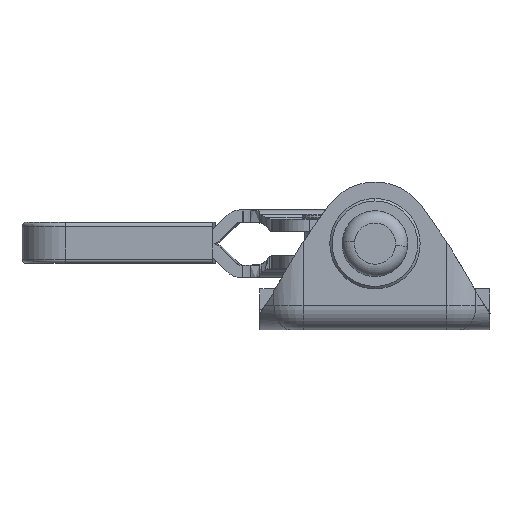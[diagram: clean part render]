
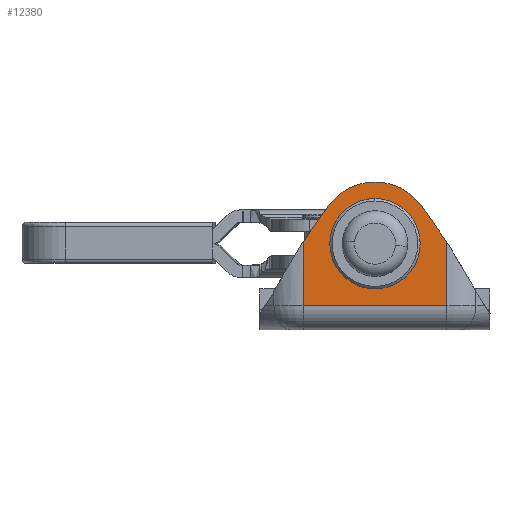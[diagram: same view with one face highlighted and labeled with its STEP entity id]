
A CAD part, left-side view. The second image highlights one B-rep face of the part: STEP entity #12380.
In plain terms, the highlighted planar face has unit normal (-1, 0, 0).
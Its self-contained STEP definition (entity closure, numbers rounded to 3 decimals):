
#643 = VECTOR ( 'NONE', #24608, 1000. ) ;
#723 = CARTESIAN_POINT ( 'NONE',  ( -12.704, -7.04, 2. ) ) ;
#943 = DIRECTION ( 'NONE',  ( 0., 0., 1. ) ) ;
#1127 = CIRCLE ( 'NONE', #22319, 7. ) ;
#1850 = VERTEX_POINT ( 'NONE', #15695 ) ;
#2398 = FACE_BOUND ( 'NONE', #23254, .T. ) ;
#2636 = VERTEX_POINT ( 'NONE', #5954 ) ;
#3382 = EDGE_CURVE ( 'NONE', #13728, #12388, #22217, .T. ) ;
#3490 = AXIS2_PLACEMENT_3D ( 'NONE', #14015, #22381, #20759 ) ;
#3508 = LINE ( 'NONE', #21587, #23444 ) ;
#4082 = DIRECTION ( 'NONE',  ( 0., 0., 1. ) ) ;
#4683 = EDGE_CURVE ( 'NONE', #14164, #25964, #12483, .T. ) ;
#4770 = CARTESIAN_POINT ( 'NONE',  ( -12.704, -7.17, 10.5 ) ) ;
#5179 = VERTEX_POINT ( 'NONE', #7580 ) ;
#5395 = EDGE_CURVE ( 'NONE', #2636, #13728, #7202, .T. ) ;
#5404 = ORIENTED_EDGE ( 'NONE', *, *, #3382, .F. ) ;
#5936 = CARTESIAN_POINT ( 'NONE',  ( -12.704, 10.475, 2. ) ) ;
#5954 = CARTESIAN_POINT ( 'NONE',  ( -12.704, -7.04, 10.686 ) ) ;
#6242 = ORIENTED_EDGE ( 'NONE', *, *, #5395, .F. ) ;
#7202 = LINE ( 'NONE', #723, #22926 ) ;
#7580 = CARTESIAN_POINT ( 'NONE',  ( -12.704, 10.475, 10.686 ) ) ;
#7796 = CARTESIAN_POINT ( 'NONE',  ( -12.704, 1.717, 6.65 ) ) ;
#8088 = DIRECTION ( 'NONE',  ( 0., 0.574, -0.819 ) ) ;
#8184 = CARTESIAN_POINT ( 'NONE',  ( -12.704, 10.475, 3. ) ) ;
#8920 = CARTESIAN_POINT ( 'NONE',  ( -12.704, -3.84, 15.256 ) ) ;
#10135 = ORIENTED_EDGE ( 'NONE', *, *, #22400, .T. ) ;
#10256 = VECTOR ( 'NONE', #8088, 1000. ) ;
#10319 = ORIENTED_EDGE ( 'NONE', *, *, #23423, .F. ) ;
#10423 = ORIENTED_EDGE ( 'NONE', *, *, #10466, .F. ) ;
#10466 = EDGE_CURVE ( 'NONE', #12388, #5179, #3508, .T. ) ;
#10840 = CIRCLE ( 'NONE', #19035, 3.85 ) ;
#10885 = ORIENTED_EDGE ( 'NONE', *, *, #23261, .T. ) ;
#11395 = CARTESIAN_POINT ( 'NONE',  ( -12.704, 1.717, 11. ) ) ;
#11439 = CARTESIAN_POINT ( 'NONE',  ( -12.704, 1.717, 10.5 ) ) ;
#12071 = PLANE ( 'NONE',  #13693 ) ;
#12190 = LINE ( 'NONE', #22355, #10256 ) ;
#12380 = ADVANCED_FACE ( 'NONE', ( #2398, #21381 ), #12071, .F. ) ;
#12388 = VERTEX_POINT ( 'NONE', #26446 ) ;
#12483 = CIRCLE ( 'NONE', #18418, 3.85 ) ;
#12549 = DIRECTION ( 'NONE',  ( 1., 0., 0. ) ) ;
#13125 = EDGE_CURVE ( 'NONE', #1850, #26069, #19189, .T. ) ;
#13693 = AXIS2_PLACEMENT_3D ( 'NONE', #5936, #16405, #20230 ) ;
#13728 = VERTEX_POINT ( 'NONE', #16289 ) ;
#14015 = CARTESIAN_POINT ( 'NONE',  ( -12.704, 1.717, 11. ) ) ;
#14139 = ORIENTED_EDGE ( 'NONE', *, *, #20031, .T. ) ;
#14164 = VERTEX_POINT ( 'NONE', #7796 ) ;
#15106 = DIRECTION ( 'NONE',  ( 0., 0., -1. ) ) ;
#15695 = CARTESIAN_POINT ( 'NONE',  ( -12.704, 1.717, 18. ) ) ;
#15831 = VERTEX_POINT ( 'NONE', #16154 ) ;
#16071 = EDGE_LOOP ( 'NONE', ( #6242, #14139, #23750, #10319, #10135, #10423, #5404 ) ) ;
#16154 = CARTESIAN_POINT ( 'NONE',  ( -12.704, 7.275, 15.256 ) ) ;
#16289 = CARTESIAN_POINT ( 'NONE',  ( -12.704, -7.04, 3. ) ) ;
#16354 = CARTESIAN_POINT ( 'NONE',  ( -12.704, 1.717, 10.5 ) ) ;
#16405 = DIRECTION ( 'NONE',  ( 1., 0., 0. ) ) ;
#16744 = VECTOR ( 'NONE', #23286, 1000. ) ;
#18418 = AXIS2_PLACEMENT_3D ( 'NONE', #11439, #23534, #943 ) ;
#19035 = AXIS2_PLACEMENT_3D ( 'NONE', #16354, #12549, #4082 ) ;
#19189 = CIRCLE ( 'NONE', #3490, 7. ) ;
#19700 = DIRECTION ( 'NONE',  ( 0., 0., 1. ) ) ;
#20031 = EDGE_CURVE ( 'NONE', #2636, #26069, #23206, .T. ) ;
#20230 = DIRECTION ( 'NONE',  ( 0., 0., -1. ) ) ;
#20759 = DIRECTION ( 'NONE',  ( 0., 0., 1. ) ) ;
#21223 = DIRECTION ( 'NONE',  ( 1., 0., 0. ) ) ;
#21381 = FACE_OUTER_BOUND ( 'NONE', #16071, .T. ) ;
#21587 = CARTESIAN_POINT ( 'NONE',  ( -12.704, 10.475, 2. ) ) ;
#22217 = LINE ( 'NONE', #8184, #643 ) ;
#22319 = AXIS2_PLACEMENT_3D ( 'NONE', #11395, #21223, #25668 ) ;
#22355 = CARTESIAN_POINT ( 'NONE',  ( -12.704, 10.605, 10.5 ) ) ;
#22381 = DIRECTION ( 'NONE',  ( 1., 0., 0. ) ) ;
#22400 = EDGE_CURVE ( 'NONE', #15831, #5179, #12190, .T. ) ;
#22926 = VECTOR ( 'NONE', #15106, 1000. ) ;
#23206 = LINE ( 'NONE', #4770, #16744 ) ;
#23254 = EDGE_LOOP ( 'NONE', ( #10885, #24154 ) ) ;
#23261 = EDGE_CURVE ( 'NONE', #25964, #14164, #10840, .T. ) ;
#23286 = DIRECTION ( 'NONE',  ( 0., 0.574, 0.819 ) ) ;
#23423 = EDGE_CURVE ( 'NONE', #15831, #1850, #1127, .T. ) ;
#23444 = VECTOR ( 'NONE', #19700, 1000. ) ;
#23534 = DIRECTION ( 'NONE',  ( 1., 0., 0. ) ) ;
#23750 = ORIENTED_EDGE ( 'NONE', *, *, #13125, .F. ) ;
#24154 = ORIENTED_EDGE ( 'NONE', *, *, #4683, .T. ) ;
#24608 = DIRECTION ( 'NONE',  ( 0., 1., 0. ) ) ;
#24801 = CARTESIAN_POINT ( 'NONE',  ( -12.704, 1.717, 14.35 ) ) ;
#25668 = DIRECTION ( 'NONE',  ( 0., 0., 1. ) ) ;
#25964 = VERTEX_POINT ( 'NONE', #24801 ) ;
#26069 = VERTEX_POINT ( 'NONE', #8920 ) ;
#26446 = CARTESIAN_POINT ( 'NONE',  ( -12.704, 10.475, 3. ) ) ;
